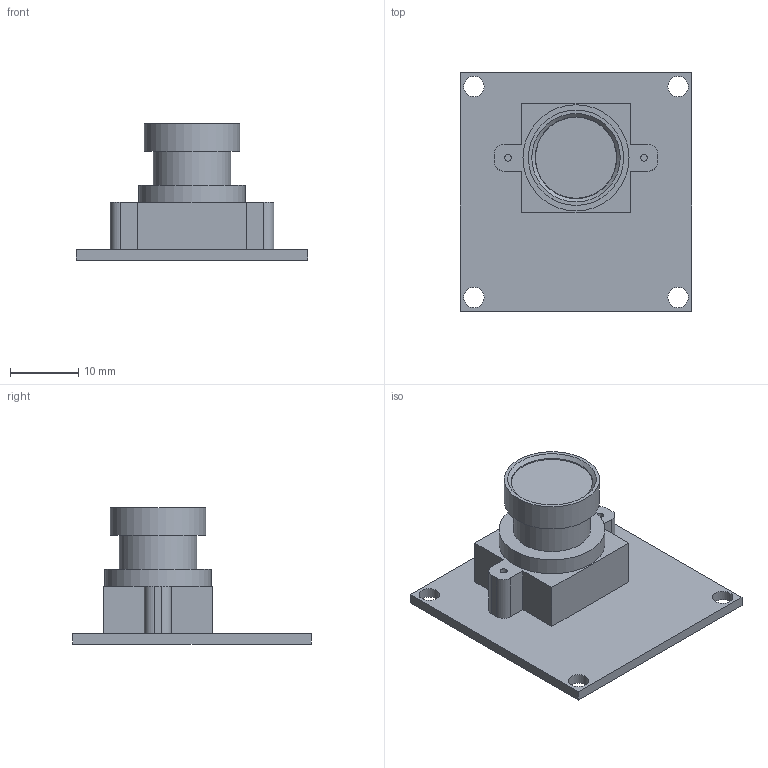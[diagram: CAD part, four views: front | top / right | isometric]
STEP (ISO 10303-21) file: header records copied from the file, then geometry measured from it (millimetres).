
FILE_DESCRIPTION(('FreeCAD Model'),'2;1');
FILE_NAME('Open CASCADE Shape Model','2023-04-10T16:34:02',('Author'),( ''),'Open CASCADE STEP processor 7.5','FreeCAD','Unknown');
FILE_SCHEMA(('AUTOMOTIVE_DESIGN { 1 0 10303 214 1 1 1 1 }'));
Length unit declared in the file: millimetre
Products named in the file (4): camera; Body054; Body055; Body056
Assembly tree (3 placements, depth 2):
  camera
    Body054
    Body055
    Body056
Bounding box: 34 x 35 x 20 mm (x, y, z)
Volume: 4397.5 mm3; surface area: 4850.5 mm2
Topology: 3 solids, 3 shells, 43 faces, 96 edges, 64 vertices
Faces by surface type: plane 26, cylinder 15, cone 1, revolution 1
Full cylindrical faces by diameter (mm): 1 x2, 3 x4, 8 x1, 11.362 x1, 12 x1, 14 x1, 15.6 x1
Entity records: 2644 total; most frequent: CARTESIAN_POINT 509, DIRECTION 399, LINE 224, VECTOR 224, ORIENTED_EDGE 194, PCURVE 194, DEFINITIONAL_REPRESENTATION 194, EDGE_CURVE 97
